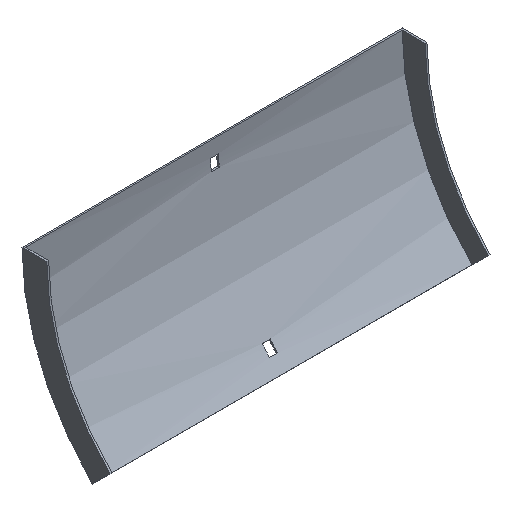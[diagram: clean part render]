
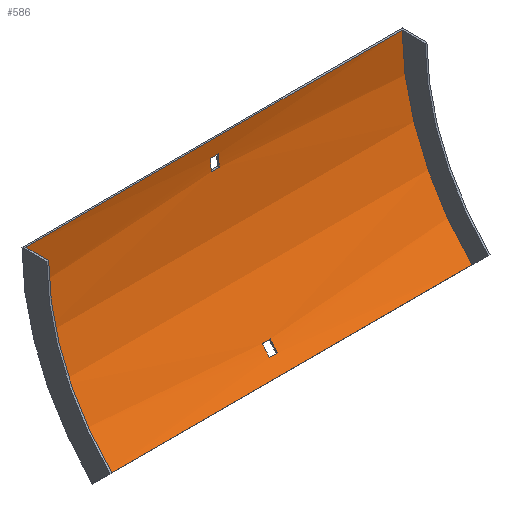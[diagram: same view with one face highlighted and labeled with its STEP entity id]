
A CAD part, isometric view. The second image highlights one B-rep face of the part: STEP entity #586.
In plain terms, the highlighted cylindrical face has radius 192.5 mm (diameter 385 mm), a partial arc.
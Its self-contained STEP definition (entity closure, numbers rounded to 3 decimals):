
#4 = ORIENTED_EDGE ( 'NONE', *, *, #97, .F. ) ;
#5 = CIRCLE ( 'NONE', #369, 192.5 ) ;
#7 = CARTESIAN_POINT ( 'NONE',  ( -3.25, -2.649, -21. ) ) ;
#10 = AXIS2_PLACEMENT_3D ( 'NONE', #177, #216, #137 ) ;
#13 = LINE ( 'NONE', #195, #419 ) ;
#32 = ORIENTED_EDGE ( 'NONE', *, *, #248, .F. ) ;
#41 = ORIENTED_EDGE ( 'NONE', *, *, #167, .T. ) ;
#48 = FACE_OUTER_BOUND ( 'NONE', #228, .T. ) ;
#52 = DIRECTION ( 'NONE',  ( -1., 0., 0. ) ) ;
#57 = VERTEX_POINT ( 'NONE', #220 ) ;
#60 = CARTESIAN_POINT ( 'NONE',  ( 153.5, -49.661, -127.368 ) ) ;
#64 = AXIS2_PLACEMENT_3D ( 'NONE', #191, #102, #485 ) ;
#77 = ORIENTED_EDGE ( 'NONE', *, *, #517, .T. ) ;
#80 = EDGE_CURVE ( 'NONE', #368, #85, #515, .T. ) ;
#81 = VERTEX_POINT ( 'NONE', #328 ) ;
#84 = LINE ( 'NONE', #552, #352 ) ;
#85 = VERTEX_POINT ( 'NONE', #531 ) ;
#87 = AXIS2_PLACEMENT_3D ( 'NONE', #543, #255, #439 ) ;
#91 = CARTESIAN_POINT ( 'NONE',  ( -152., -1.5, 0. ) ) ;
#92 = VERTEX_POINT ( 'NONE', #111 ) ;
#97 = EDGE_CURVE ( 'NONE', #92, #115, #106, .T. ) ;
#98 = DIRECTION ( 'NONE',  ( 1., 0., 0. ) ) ;
#102 = DIRECTION ( 'NONE',  ( 1., 0., 0. ) ) ;
#106 = LINE ( 'NONE', #242, #518 ) ;
#111 = CARTESIAN_POINT ( 'NONE',  ( 3.25, -1.874, -12. ) ) ;
#115 = VERTEX_POINT ( 'NONE', #565 ) ;
#125 = EDGE_CURVE ( 'NONE', #417, #368, #156, .T. ) ;
#127 = CARTESIAN_POINT ( 'NONE',  ( 3.25, -49.661, -127.368 ) ) ;
#128 = CIRCLE ( 'NONE', #87, 192.5 ) ;
#134 = DIRECTION ( 'NONE',  ( -1., 0., 0. ) ) ;
#137 = DIRECTION ( 'NONE',  ( 0., 0., 1. ) ) ;
#141 = AXIS2_PLACEMENT_3D ( 'NONE', #241, #337, #148 ) ;
#143 = EDGE_CURVE ( 'NONE', #85, #415, #435, .T. ) ;
#148 = DIRECTION ( 'NONE',  ( 0., 0., 1. ) ) ;
#156 = LINE ( 'NONE', #60, #489 ) ;
#163 = ORIENTED_EDGE ( 'NONE', *, *, #80, .T. ) ;
#167 = EDGE_CURVE ( 'NONE', #209, #499, #13, .T. ) ;
#172 = CARTESIAN_POINT ( 'NONE',  ( 3.25, -2.649, -21. ) ) ;
#177 = CARTESIAN_POINT ( 'NONE',  ( -152., -194., 0. ) ) ;
#187 = CYLINDRICAL_SURFACE ( 'NONE', #538, 192.5 ) ;
#191 = CARTESIAN_POINT ( 'NONE',  ( -3.25, -194., 0. ) ) ;
#195 = CARTESIAN_POINT ( 'NONE',  ( 152., -1.5, 0. ) ) ;
#207 = EDGE_LOOP ( 'NONE', ( #562, #4, #32, #556 ) ) ;
#209 = VERTEX_POINT ( 'NONE', #300 ) ;
#216 = DIRECTION ( 'NONE',  ( 1., 0., 0. ) ) ;
#217 = ORIENTED_EDGE ( 'NONE', *, *, #363, .F. ) ;
#220 = CARTESIAN_POINT ( 'NONE',  ( -152., -57.882, -136.118 ) ) ;
#222 = CARTESIAN_POINT ( 'NONE',  ( 3.25, -194., 0. ) ) ;
#228 = EDGE_LOOP ( 'NONE', ( #243, #217, #77, #41 ) ) ;
#231 = FACE_BOUND ( 'NONE', #428, .T. ) ;
#237 = DIRECTION ( 'NONE',  ( 0., 0., 1. ) ) ;
#241 = CARTESIAN_POINT ( 'NONE',  ( -3.25, -194., 0. ) ) ;
#242 = CARTESIAN_POINT ( 'NONE',  ( 153.5, -1.874, -12. ) ) ;
#243 = ORIENTED_EDGE ( 'NONE', *, *, #362, .F. ) ;
#248 = EDGE_CURVE ( 'NONE', #398, #92, #128, .T. ) ;
#255 = DIRECTION ( 'NONE',  ( 1., 0., 0. ) ) ;
#265 = CIRCLE ( 'NONE', #141, 192.5 ) ;
#267 = CARTESIAN_POINT ( 'NONE',  ( -3.25, -49.661, -127.368 ) ) ;
#273 = ORIENTED_EDGE ( 'NONE', *, *, #125, .T. ) ;
#284 = DIRECTION ( 'NONE',  ( 1., 0., 0. ) ) ;
#300 = CARTESIAN_POINT ( 'NONE',  ( 152., -1.5, 0. ) ) ;
#319 = DIRECTION ( 'NONE',  ( 1., 0., 0. ) ) ;
#322 = AXIS2_PLACEMENT_3D ( 'NONE', #222, #134, #514 ) ;
#328 = CARTESIAN_POINT ( 'NONE',  ( 152., -57.882, -136.118 ) ) ;
#329 = DIRECTION ( 'NONE',  ( 0., 0., 1. ) ) ;
#330 = CARTESIAN_POINT ( 'NONE',  ( 153.5, -43.845, -120.456 ) ) ;
#337 = DIRECTION ( 'NONE',  ( -1., 0., 0. ) ) ;
#352 = VECTOR ( 'NONE', #554, 1000. ) ;
#362 = EDGE_CURVE ( 'NONE', #57, #499, #470, .T. ) ;
#363 = EDGE_CURVE ( 'NONE', #81, #57, #84, .T. ) ;
#368 = VERTEX_POINT ( 'NONE', #267 ) ;
#369 = AXIS2_PLACEMENT_3D ( 'NONE', #606, #98, #237 ) ;
#370 = EDGE_CURVE ( 'NONE', #415, #417, #511, .T. ) ;
#378 = CARTESIAN_POINT ( 'NONE',  ( 153.5, -194., 0. ) ) ;
#384 = DIRECTION ( 'NONE',  ( -1., 0., 0. ) ) ;
#390 = EDGE_CURVE ( 'NONE', #490, #398, #457, .T. ) ;
#398 = VERTEX_POINT ( 'NONE', #172 ) ;
#403 = VECTOR ( 'NONE', #319, 1000. ) ;
#409 = CARTESIAN_POINT ( 'NONE',  ( 153.5, -2.649, -21. ) ) ;
#415 = VERTEX_POINT ( 'NONE', #549 ) ;
#417 = VERTEX_POINT ( 'NONE', #127 ) ;
#419 = VECTOR ( 'NONE', #52, 1000. ) ;
#428 = EDGE_LOOP ( 'NONE', ( #273, #163, #463, #591 ) ) ;
#435 = LINE ( 'NONE', #330, #559 ) ;
#439 = DIRECTION ( 'NONE',  ( 0., 0., -1. ) ) ;
#457 = LINE ( 'NONE', #409, #403 ) ;
#463 = ORIENTED_EDGE ( 'NONE', *, *, #143, .T. ) ;
#469 = FACE_BOUND ( 'NONE', #207, .T. ) ;
#470 = CIRCLE ( 'NONE', #10, 192.5 ) ;
#478 = DIRECTION ( 'NONE',  ( -1., 0., 0. ) ) ;
#485 = DIRECTION ( 'NONE',  ( 0., 0., -1. ) ) ;
#489 = VECTOR ( 'NONE', #478, 1000. ) ;
#490 = VERTEX_POINT ( 'NONE', #7 ) ;
#499 = VERTEX_POINT ( 'NONE', #91 ) ;
#500 = EDGE_CURVE ( 'NONE', #115, #490, #265, .T. ) ;
#511 = CIRCLE ( 'NONE', #322, 192.5 ) ;
#514 = DIRECTION ( 'NONE',  ( 0., 0., 1. ) ) ;
#515 = CIRCLE ( 'NONE', #64, 192.5 ) ;
#517 = EDGE_CURVE ( 'NONE', #81, #209, #5, .T. ) ;
#518 = VECTOR ( 'NONE', #384, 1000. ) ;
#531 = CARTESIAN_POINT ( 'NONE',  ( -3.25, -43.845, -120.456 ) ) ;
#538 = AXIS2_PLACEMENT_3D ( 'NONE', #378, #566, #329 ) ;
#543 = CARTESIAN_POINT ( 'NONE',  ( 3.25, -194., 0. ) ) ;
#549 = CARTESIAN_POINT ( 'NONE',  ( 3.25, -43.845, -120.456 ) ) ;
#552 = CARTESIAN_POINT ( 'NONE',  ( 152., -57.882, -136.118 ) ) ;
#554 = DIRECTION ( 'NONE',  ( -1., 0., 0. ) ) ;
#556 = ORIENTED_EDGE ( 'NONE', *, *, #390, .F. ) ;
#559 = VECTOR ( 'NONE', #284, 1000. ) ;
#562 = ORIENTED_EDGE ( 'NONE', *, *, #500, .F. ) ;
#565 = CARTESIAN_POINT ( 'NONE',  ( -3.25, -1.874, -12. ) ) ;
#566 = DIRECTION ( 'NONE',  ( -1., 0., 0. ) ) ;
#586 = ADVANCED_FACE ( 'NONE', ( #469, #48, #231 ), #187, .F. ) ;
#591 = ORIENTED_EDGE ( 'NONE', *, *, #370, .T. ) ;
#606 = CARTESIAN_POINT ( 'NONE',  ( 152., -194., 0. ) ) ;
